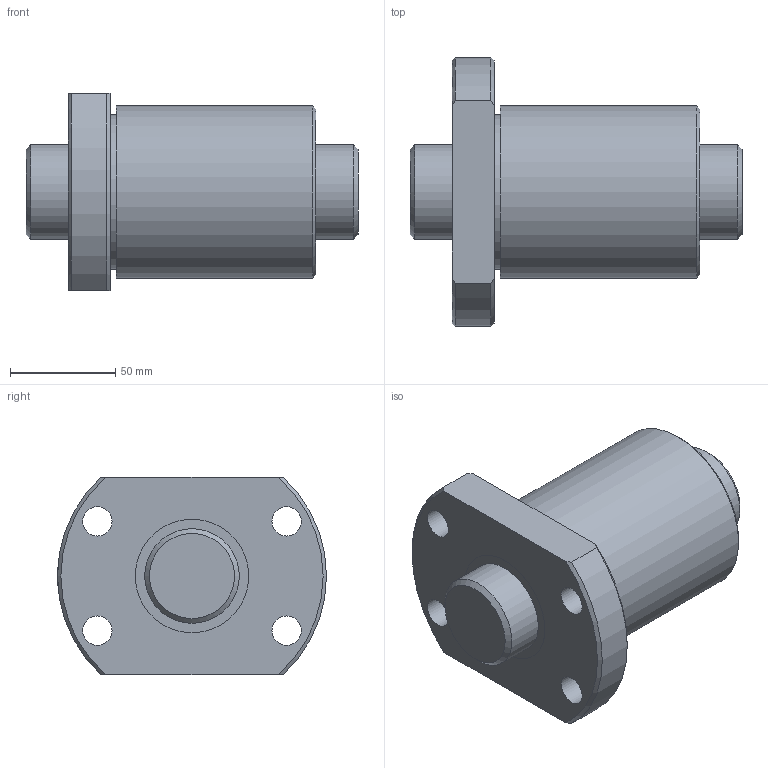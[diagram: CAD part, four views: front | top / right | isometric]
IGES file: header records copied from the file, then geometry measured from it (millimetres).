
Start section: Data from Parasolid IGES Translator 26.0.171, Copyright(c) 2006 Siemens PLM Software. All Rights Reserved.
Global section: file name: BTK4512V-5.3ZZ+158LC7T_000.igs; native system: By Siemens PLM Incorporated; preprocessor: XPlus GENERIC/IGES 26.0.171; author: Noname; organization: Noname; date: 20250116.075848; units: millimetre
Bounding box: 158 x 128 x 94 mm (x, y, z)
Surface area: 97413.6 mm2 (no closed solid volume)
Topology: 0 solids, 0 shells, 31 faces, 142 edges, 123 vertices
Faces by surface type: revolution 21, extrusion 10
